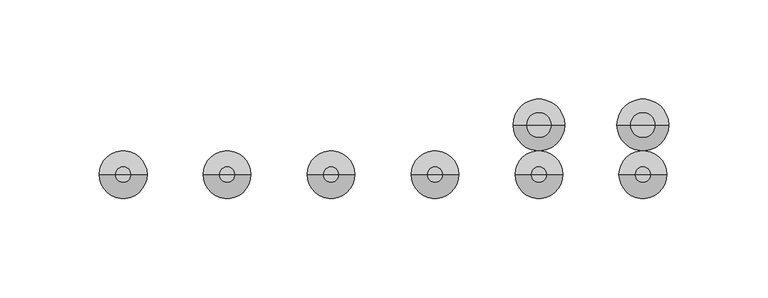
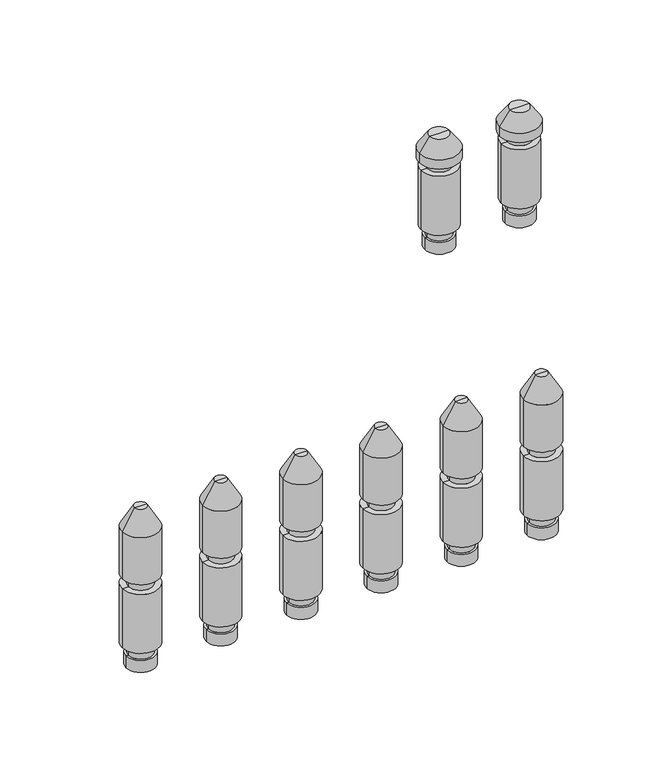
"""IFC4 building model written with IfcOpenShell, lengths in millimetres: valve geometry, PL AT_Manifold_FT-EV : 14 circuits."""

from ifc_helpers import new_model, si_unit, frame, origin, place, context, project, spatial, polyline, circle_curve, source, transform, mapped, element, save
from ifc_brep_helpers import plane_surface, cylinder_surface, revolved_surface, advanced_brep


def valve_5ad404c9(model_context):
    return source(origin(), model_context, "Body", "AdvancedBrep", [
        advanced_brep(
        [(660.1923077, 0.0, -35.11267), (679.1923077, 0.0, -35.11267), (669.6923077, 0.0, -35.11267), (660.1923077, 0.0, -27.0369646), (679.1923077, 0.0, -27.0369646), (661.6923077, 0.0, -27.0369646), (677.6923077, 0.0, -27.0369646), (661.6923077, 0.0, -20.330253), (677.6923077, 0.0, -20.330253), (657.6923077, 0.0, -20.330253), (681.6923077, 0.0, -20.330253), (657.6923077, 0.0, 20.330253), (681.6923077, 0.0, 20.330253), (661.6923077, 0.0, 20.330253), (677.6923077, 0.0, 20.330253), (661.6923077, 0.0, 27.0474786), (677.6923077, 0.0, 27.0474786), (657.6923077, 0.0, 27.0474786), (681.6923077, 0.0, 27.0474786), (657.6923077, 0.0, 59.4084325), (681.6923077, 0.0, 59.4084325), (665.6923077, 0.0, 73.264839), (673.6923077, 0.0, 73.264839), (669.6923077, 0.0, 73.264839)],
        [
            (0, 1, circle_curve(frame((669.6923077, 0.0, -35.11267), z_axis=(0.0, 0.0, -1.0), x_axis=(1.0, 0.0, 0.0)), 9.5)),
            (1, 2),
            (2, 0),
            (1, 0, circle_curve(frame((669.6923077, 0.0, -35.11267), z_axis=(0.0, 0.0, -1.0), x_axis=(1.0, 0.0, 0.0)), 9.5)),
            (3, 4, circle_curve(frame((669.6923077, 0.0, -27.0369646), z_axis=(0.0, 0.0, -1.0), x_axis=(1.0, 0.0, 0.0)), 9.5)),
            (4, 1),
            (0, 3),
            (4, 3, circle_curve(frame((669.6923077, 0.0, -27.0369646), z_axis=(0.0, 0.0, -1.0), x_axis=(1.0, 0.0, 0.0)), 9.5)),
            (5, 6, circle_curve(frame((669.6923077, 0.0, -27.0369646), z_axis=(0.0, 0.0, -1.0), x_axis=(1.0, 0.0, 0.0)), 8.0)),
            (6, 4),
            (3, 5),
            (6, 5, circle_curve(frame((669.6923077, 0.0, -27.0369646), z_axis=(0.0, 0.0, -1.0), x_axis=(1.0, 0.0, 0.0)), 8.0)),
            (7, 8, circle_curve(frame((669.6923077, 0.0, -20.330253), z_axis=(0.0, 0.0, -1.0), x_axis=(1.0, 0.0, 0.0)), 8.0)),
            (8, 6),
            (5, 7),
            (8, 7, circle_curve(frame((669.6923077, 0.0, -20.330253), z_axis=(0.0, 0.0, -1.0), x_axis=(1.0, 0.0, 0.0)), 8.0)),
            (9, 10, circle_curve(frame((669.6923077, 0.0, -20.330253), z_axis=(0.0, 0.0, -1.0), x_axis=(1.0, 0.0, 0.0)), 12.0)),
            (10, 8),
            (7, 9),
            (10, 9, circle_curve(frame((669.6923077, 0.0, -20.330253), z_axis=(0.0, 0.0, -1.0), x_axis=(1.0, 0.0, 0.0)), 12.0)),
            (11, 12, circle_curve(frame((669.6923077, 0.0, 20.330253), z_axis=(0.0, 0.0, -1.0), x_axis=(1.0, 0.0, 0.0)), 12.0)),
            (12, 10),
            (9, 11),
            (12, 11, circle_curve(frame((669.6923077, 0.0, 20.330253), z_axis=(0.0, 0.0, -1.0), x_axis=(1.0, 0.0, 0.0)), 12.0)),
            (13, 14, circle_curve(frame((669.6923077, 0.0, 20.330253), z_axis=(0.0, 0.0, -1.0), x_axis=(1.0, 0.0, 0.0)), 8.0)),
            (14, 12),
            (11, 13),
            (14, 13, circle_curve(frame((669.6923077, 0.0, 20.330253), z_axis=(0.0, 0.0, -1.0), x_axis=(1.0, 0.0, 0.0)), 8.0)),
            (15, 16, circle_curve(frame((669.6923077, 0.0, 27.0474786), z_axis=(0.0, 0.0, -1.0), x_axis=(1.0, 0.0, 0.0)), 8.0)),
            (16, 14),
            (13, 15),
            (16, 15, circle_curve(frame((669.6923077, 0.0, 27.0474786), z_axis=(0.0, 0.0, -1.0), x_axis=(1.0, 0.0, 0.0)), 8.0)),
            (17, 18, circle_curve(frame((669.6923077, 0.0, 27.0474786), z_axis=(0.0, 0.0, -1.0), x_axis=(1.0, 0.0, 0.0)), 12.0)),
            (18, 16),
            (15, 17),
            (18, 17, circle_curve(frame((669.6923077, 0.0, 27.0474786), z_axis=(0.0, 0.0, -1.0), x_axis=(1.0, 0.0, 0.0)), 12.0)),
            (19, 20, circle_curve(frame((669.6923077, 0.0, 59.4084325), z_axis=(0.0, 0.0, -1.0), x_axis=(1.0, 0.0, 0.0)), 12.0)),
            (20, 18),
            (17, 19),
            (20, 19, circle_curve(frame((669.6923077, 0.0, 59.4084325), z_axis=(0.0, 0.0, -1.0), x_axis=(1.0, 0.0, 0.0)), 12.0)),
            (21, 22, circle_curve(frame((669.6923077, 0.0, 73.264839), z_axis=(0.0, 0.0, -1.0), x_axis=(1.0, 0.0, 0.0)), 4.0)),
            (22, 20),
            (19, 21),
            (22, 21, circle_curve(frame((669.6923077, 0.0, 73.264839), z_axis=(0.0, 0.0, -1.0), x_axis=(1.0, 0.0, 0.0)), 4.0)),
            (23, 22),
            (21, 23),
        ],
        [
            plane_surface(frame((669.6923077, 0.0, -35.11267), z_axis=(0.0, 0.0, -1.0), x_axis=(1.0, 0.0, 0.0))),
            cylinder_surface(frame((669.6923077, 0.0, 58.264839), z_axis=(0.0, 0.0, 1.0), x_axis=(1.0, 0.0, 0.0)), 9.5),
            plane_surface(frame((669.6923077, 0.0, -27.0369646), z_axis=(0.0, 0.0, 1.0), x_axis=(1.0, 0.0, 0.0))),
            cylinder_surface(frame((669.6923077, 0.0, 58.264839), z_axis=(0.0, 0.0, 1.0), x_axis=(1.0, 0.0, 0.0)), 8.0),
            plane_surface(frame((669.6923077, 0.0, -20.330253), z_axis=(0.0, 0.0, -1.0), x_axis=(1.0, 0.0, 0.0))),
            cylinder_surface(frame((669.6923077, 0.0, 58.264839), z_axis=(0.0, 0.0, 1.0), x_axis=(1.0, 0.0, 0.0)), 12.0),
            plane_surface(frame((669.6923077, 0.0, 20.330253), z_axis=(0.0, 0.0, 1.0), x_axis=(1.0, 0.0, 0.0))),
            plane_surface(frame((669.6923077, 0.0, 27.0474786), z_axis=(0.0, 0.0, -1.0), x_axis=(1.0, 0.0, 0.0))),
            revolved_surface(polyline([(681.6923077, 0.0, 59.4084325), (673.6923077, 0.0, 73.264839)]), (669.6923077, 0.0, 58.264839), (0.0, 0.0, 1.0)),
            plane_surface(frame((669.6923077, 0.0, 73.264839), z_axis=(0.0, 0.0, 1.0), x_axis=(1.0, 0.0, 0.0))),
        ],
        [
            (0, [[1, 2, 3]]),
            (0, [[4, -3, -2]]),
            (1, [[5, 6, -1, 7]]),
            (1, [[8, -7, -4, -6]]),
            (2, [[9, 10, -5, 11]]),
            (2, [[12, -11, -8, -10]]),
            (3, [[13, 14, -9, 15]]),
            (3, [[16, -15, -12, -14]]),
            (4, [[17, 18, -13, 19]]),
            (4, [[20, -19, -16, -18]]),
            (5, [[21, 22, -17, 23]]),
            (5, [[24, -23, -20, -22]]),
            (6, [[25, 26, -21, 27]]),
            (6, [[28, -27, -24, -26]]),
            (3, [[29, 30, -25, 31]]),
            (3, [[32, -31, -28, -30]]),
            (7, [[33, 34, -29, 35]]),
            (7, [[36, -35, -32, -34]]),
            (5, [[37, 38, -33, 39]]),
            (5, [[40, -39, -36, -38]]),
            (8, [[41, 42, -37, 43]]),
            (8, [[44, -43, -40, -42]]),
            (9, [[45, -41, 46]]),
            (9, [[-46, -44, -45]]),
        ],
    ),
        advanced_brep(
        [(607.8846154, 0.0, -35.11267), (626.8846154, 0.0, -35.11267), (617.3846154, 0.0, -35.11267), (607.8846154, 0.0, -27.0369646), (626.8846154, 0.0, -27.0369646), (609.3846154, 0.0, -27.0369646), (625.3846154, 0.0, -27.0369646), (609.3846154, 0.0, -20.330253), (625.3846154, 0.0, -20.330253), (605.3846154, 0.0, -20.330253), (629.3846154, 0.0, -20.330253), (605.3846154, 0.0, 20.330253), (629.3846154, 0.0, 20.330253), (609.3846154, 0.0, 20.330253), (625.3846154, 0.0, 20.330253), (609.3846154, 0.0, 27.0474786), (625.3846154, 0.0, 27.0474786), (605.3846154, 0.0, 27.0474786), (629.3846154, 0.0, 27.0474786), (605.3846154, 0.0, 59.4084325), (629.3846154, 0.0, 59.4084325), (613.3846154, 0.0, 73.264839), (621.3846154, 0.0, 73.264839), (617.3846154, 0.0, 73.264839)],
        [
            (0, 1, circle_curve(frame((617.3846154, 0.0, -35.11267), z_axis=(0.0, 0.0, -1.0), x_axis=(1.0, 0.0, 0.0)), 9.5)),
            (1, 2),
            (2, 0),
            (1, 0, circle_curve(frame((617.3846154, 0.0, -35.11267), z_axis=(0.0, 0.0, -1.0), x_axis=(1.0, 0.0, 0.0)), 9.5)),
            (3, 4, circle_curve(frame((617.3846154, 0.0, -27.0369646), z_axis=(0.0, 0.0, -1.0), x_axis=(1.0, 0.0, 0.0)), 9.5)),
            (4, 1),
            (0, 3),
            (4, 3, circle_curve(frame((617.3846154, 0.0, -27.0369646), z_axis=(0.0, 0.0, -1.0), x_axis=(1.0, 0.0, 0.0)), 9.5)),
            (5, 6, circle_curve(frame((617.3846154, 0.0, -27.0369646), z_axis=(0.0, 0.0, -1.0), x_axis=(1.0, 0.0, 0.0)), 8.0)),
            (6, 4),
            (3, 5),
            (6, 5, circle_curve(frame((617.3846154, 0.0, -27.0369646), z_axis=(0.0, 0.0, -1.0), x_axis=(1.0, 0.0, 0.0)), 8.0)),
            (7, 8, circle_curve(frame((617.3846154, 0.0, -20.330253), z_axis=(0.0, 0.0, -1.0), x_axis=(1.0, 0.0, 0.0)), 8.0)),
            (8, 6),
            (5, 7),
            (8, 7, circle_curve(frame((617.3846154, 0.0, -20.330253), z_axis=(0.0, 0.0, -1.0), x_axis=(1.0, 0.0, 0.0)), 8.0)),
            (9, 10, circle_curve(frame((617.3846154, 0.0, -20.330253), z_axis=(0.0, 0.0, -1.0), x_axis=(1.0, 0.0, 0.0)), 12.0)),
            (10, 8),
            (7, 9),
            (10, 9, circle_curve(frame((617.3846154, 0.0, -20.330253), z_axis=(0.0, 0.0, -1.0), x_axis=(1.0, 0.0, 0.0)), 12.0)),
            (11, 12, circle_curve(frame((617.3846154, 0.0, 20.330253), z_axis=(0.0, 0.0, -1.0), x_axis=(1.0, 0.0, 0.0)), 12.0)),
            (12, 10),
            (9, 11),
            (12, 11, circle_curve(frame((617.3846154, 0.0, 20.330253), z_axis=(0.0, 0.0, -1.0), x_axis=(1.0, 0.0, 0.0)), 12.0)),
            (13, 14, circle_curve(frame((617.3846154, 0.0, 20.330253), z_axis=(0.0, 0.0, -1.0), x_axis=(1.0, 0.0, 0.0)), 8.0)),
            (14, 12),
            (11, 13),
            (14, 13, circle_curve(frame((617.3846154, 0.0, 20.330253), z_axis=(0.0, 0.0, -1.0), x_axis=(1.0, 0.0, 0.0)), 8.0)),
            (15, 16, circle_curve(frame((617.3846154, 0.0, 27.0474786), z_axis=(0.0, 0.0, -1.0), x_axis=(1.0, 0.0, 0.0)), 8.0)),
            (16, 14),
            (13, 15),
            (16, 15, circle_curve(frame((617.3846154, 0.0, 27.0474786), z_axis=(0.0, 0.0, -1.0), x_axis=(1.0, 0.0, 0.0)), 8.0)),
            (17, 18, circle_curve(frame((617.3846154, 0.0, 27.0474786), z_axis=(0.0, 0.0, -1.0), x_axis=(1.0, 0.0, 0.0)), 12.0)),
            (18, 16),
            (15, 17),
            (18, 17, circle_curve(frame((617.3846154, 0.0, 27.0474786), z_axis=(0.0, 0.0, -1.0), x_axis=(1.0, 0.0, 0.0)), 12.0)),
            (19, 20, circle_curve(frame((617.3846154, 0.0, 59.4084325), z_axis=(0.0, 0.0, -1.0), x_axis=(1.0, 0.0, 0.0)), 12.0)),
            (20, 18),
            (17, 19),
            (20, 19, circle_curve(frame((617.3846154, 0.0, 59.4084325), z_axis=(0.0, 0.0, -1.0), x_axis=(1.0, 0.0, 0.0)), 12.0)),
            (21, 22, circle_curve(frame((617.3846154, 0.0, 73.264839), z_axis=(0.0, 0.0, -1.0), x_axis=(1.0, 0.0, 0.0)), 4.0)),
            (22, 20),
            (19, 21),
            (22, 21, circle_curve(frame((617.3846154, 0.0, 73.264839), z_axis=(0.0, 0.0, -1.0), x_axis=(1.0, 0.0, 0.0)), 4.0)),
            (23, 22),
            (21, 23),
        ],
        [
            plane_surface(frame((617.3846154, 0.0, -35.11267), z_axis=(0.0, 0.0, -1.0), x_axis=(1.0, 0.0, 0.0))),
            cylinder_surface(frame((617.3846154, 0.0, 58.264839), z_axis=(0.0, 0.0, 1.0), x_axis=(1.0, 0.0, 0.0)), 9.5),
            plane_surface(frame((617.3846154, 0.0, -27.0369646), z_axis=(0.0, 0.0, 1.0), x_axis=(1.0, 0.0, 0.0))),
            cylinder_surface(frame((617.3846154, 0.0, 58.264839), z_axis=(0.0, 0.0, 1.0), x_axis=(1.0, 0.0, 0.0)), 8.0),
            plane_surface(frame((617.3846154, 0.0, -20.330253), z_axis=(0.0, 0.0, -1.0), x_axis=(1.0, 0.0, 0.0))),
            cylinder_surface(frame((617.3846154, 0.0, 58.264839), z_axis=(0.0, 0.0, 1.0), x_axis=(1.0, 0.0, 0.0)), 12.0),
            plane_surface(frame((617.3846154, 0.0, 20.330253), z_axis=(0.0, 0.0, 1.0), x_axis=(1.0, 0.0, 0.0))),
            plane_surface(frame((617.3846154, 0.0, 27.0474786), z_axis=(0.0, 0.0, -1.0), x_axis=(1.0, 0.0, 0.0))),
            revolved_surface(polyline([(629.3846154, 0.0, 59.4084325), (621.3846154, 0.0, 73.264839)]), (617.3846154, 0.0, 58.264839), (0.0, 0.0, 1.0)),
            plane_surface(frame((617.3846154, 0.0, 73.264839), z_axis=(0.0, 0.0, 1.0), x_axis=(1.0, 0.0, 0.0))),
        ],
        [
            (0, [[1, 2, 3]]),
            (0, [[4, -3, -2]]),
            (1, [[5, 6, -1, 7]]),
            (1, [[8, -7, -4, -6]]),
            (2, [[9, 10, -5, 11]]),
            (2, [[12, -11, -8, -10]]),
            (3, [[13, 14, -9, 15]]),
            (3, [[16, -15, -12, -14]]),
            (4, [[17, 18, -13, 19]]),
            (4, [[20, -19, -16, -18]]),
            (5, [[21, 22, -17, 23]]),
            (5, [[24, -23, -20, -22]]),
            (6, [[25, 26, -21, 27]]),
            (6, [[28, -27, -24, -26]]),
            (3, [[29, 30, -25, 31]]),
            (3, [[32, -31, -28, -30]]),
            (7, [[33, 34, -29, 35]]),
            (7, [[36, -35, -32, -34]]),
            (5, [[37, 38, -33, 39]]),
            (5, [[40, -39, -36, -38]]),
            (8, [[41, 42, -37, 43]]),
            (8, [[44, -43, -40, -42]]),
            (9, [[45, -41, 46]]),
            (9, [[-46, -44, -45]]),
        ],
    ),
        advanced_brep(
        [(555.5769231, 0.0, -35.11267), (574.5769231, 0.0, -35.11267), (565.0769231, 0.0, -35.11267), (555.5769231, 0.0, -27.0369646), (574.5769231, 0.0, -27.0369646), (557.0769231, 0.0, -27.0369646), (573.0769231, 0.0, -27.0369646), (557.0769231, 0.0, -20.330253), (573.0769231, 0.0, -20.330253), (553.0769231, 0.0, -20.330253), (577.0769231, 0.0, -20.330253), (553.0769231, 0.0, 20.330253), (577.0769231, 0.0, 20.330253), (557.0769231, 0.0, 20.330253), (573.0769231, 0.0, 20.330253), (557.0769231, 0.0, 27.0474786), (573.0769231, 0.0, 27.0474786), (553.0769231, 0.0, 27.0474786), (577.0769231, 0.0, 27.0474786), (553.0769231, 0.0, 59.4084325), (577.0769231, 0.0, 59.4084325), (561.0769231, 0.0, 73.264839), (569.0769231, 0.0, 73.264839), (565.0769231, 0.0, 73.264839)],
        [
            (0, 1, circle_curve(frame((565.0769231, 0.0, -35.11267), z_axis=(0.0, 0.0, -1.0), x_axis=(1.0, 0.0, 0.0)), 9.5)),
            (1, 2),
            (2, 0),
            (1, 0, circle_curve(frame((565.0769231, 0.0, -35.11267), z_axis=(0.0, 0.0, -1.0), x_axis=(1.0, 0.0, 0.0)), 9.5)),
            (3, 4, circle_curve(frame((565.0769231, 0.0, -27.0369646), z_axis=(0.0, 0.0, -1.0), x_axis=(1.0, 0.0, 0.0)), 9.5)),
            (4, 1),
            (0, 3),
            (4, 3, circle_curve(frame((565.0769231, 0.0, -27.0369646), z_axis=(0.0, 0.0, -1.0), x_axis=(1.0, 0.0, 0.0)), 9.5)),
            (5, 6, circle_curve(frame((565.0769231, 0.0, -27.0369646), z_axis=(0.0, 0.0, -1.0), x_axis=(1.0, 0.0, 0.0)), 8.0)),
            (6, 4),
            (3, 5),
            (6, 5, circle_curve(frame((565.0769231, 0.0, -27.0369646), z_axis=(0.0, 0.0, -1.0), x_axis=(1.0, 0.0, 0.0)), 8.0)),
            (7, 8, circle_curve(frame((565.0769231, 0.0, -20.330253), z_axis=(0.0, 0.0, -1.0), x_axis=(1.0, 0.0, 0.0)), 8.0)),
            (8, 6),
            (5, 7),
            (8, 7, circle_curve(frame((565.0769231, 0.0, -20.330253), z_axis=(0.0, 0.0, -1.0), x_axis=(1.0, 0.0, 0.0)), 8.0)),
            (9, 10, circle_curve(frame((565.0769231, 0.0, -20.330253), z_axis=(0.0, 0.0, -1.0), x_axis=(1.0, 0.0, 0.0)), 12.0)),
            (10, 8),
            (7, 9),
            (10, 9, circle_curve(frame((565.0769231, 0.0, -20.330253), z_axis=(0.0, 0.0, -1.0), x_axis=(1.0, 0.0, 0.0)), 12.0)),
            (11, 12, circle_curve(frame((565.0769231, 0.0, 20.330253), z_axis=(0.0, 0.0, -1.0), x_axis=(1.0, 0.0, 0.0)), 12.0)),
            (12, 10),
            (9, 11),
            (12, 11, circle_curve(frame((565.0769231, 0.0, 20.330253), z_axis=(0.0, 0.0, -1.0), x_axis=(1.0, 0.0, 0.0)), 12.0)),
            (13, 14, circle_curve(frame((565.0769231, 0.0, 20.330253), z_axis=(0.0, 0.0, -1.0), x_axis=(1.0, 0.0, 0.0)), 8.0)),
            (14, 12),
            (11, 13),
            (14, 13, circle_curve(frame((565.0769231, 0.0, 20.330253), z_axis=(0.0, 0.0, -1.0), x_axis=(1.0, 0.0, 0.0)), 8.0)),
            (15, 16, circle_curve(frame((565.0769231, 0.0, 27.0474786), z_axis=(0.0, 0.0, -1.0), x_axis=(1.0, 0.0, 0.0)), 8.0)),
            (16, 14),
            (13, 15),
            (16, 15, circle_curve(frame((565.0769231, 0.0, 27.0474786), z_axis=(0.0, 0.0, -1.0), x_axis=(1.0, 0.0, 0.0)), 8.0)),
            (17, 18, circle_curve(frame((565.0769231, 0.0, 27.0474786), z_axis=(0.0, 0.0, -1.0), x_axis=(1.0, 0.0, 0.0)), 12.0)),
            (18, 16),
            (15, 17),
            (18, 17, circle_curve(frame((565.0769231, 0.0, 27.0474786), z_axis=(0.0, 0.0, -1.0), x_axis=(1.0, 0.0, 0.0)), 12.0)),
            (19, 20, circle_curve(frame((565.0769231, 0.0, 59.4084325), z_axis=(0.0, 0.0, -1.0), x_axis=(1.0, 0.0, 0.0)), 12.0)),
            (20, 18),
            (17, 19),
            (20, 19, circle_curve(frame((565.0769231, 0.0, 59.4084325), z_axis=(0.0, 0.0, -1.0), x_axis=(1.0, 0.0, 0.0)), 12.0)),
            (21, 22, circle_curve(frame((565.0769231, 0.0, 73.264839), z_axis=(0.0, 0.0, -1.0), x_axis=(1.0, 0.0, 0.0)), 4.0)),
            (22, 20),
            (19, 21),
            (22, 21, circle_curve(frame((565.0769231, 0.0, 73.264839), z_axis=(0.0, 0.0, -1.0), x_axis=(1.0, 0.0, 0.0)), 4.0)),
            (23, 22),
            (21, 23),
        ],
        [
            plane_surface(frame((565.0769231, 0.0, -35.11267), z_axis=(0.0, 0.0, -1.0), x_axis=(1.0, 0.0, 0.0))),
            cylinder_surface(frame((565.0769231, 0.0, 58.264839), z_axis=(0.0, 0.0, 1.0), x_axis=(1.0, 0.0, 0.0)), 9.5),
            plane_surface(frame((565.0769231, 0.0, -27.0369646), z_axis=(0.0, 0.0, 1.0), x_axis=(1.0, 0.0, 0.0))),
            cylinder_surface(frame((565.0769231, 0.0, 58.264839), z_axis=(0.0, 0.0, 1.0), x_axis=(1.0, 0.0, 0.0)), 8.0),
            plane_surface(frame((565.0769231, 0.0, -20.330253), z_axis=(0.0, 0.0, -1.0), x_axis=(1.0, 0.0, 0.0))),
            cylinder_surface(frame((565.0769231, 0.0, 58.264839), z_axis=(0.0, 0.0, 1.0), x_axis=(1.0, 0.0, 0.0)), 12.0),
            plane_surface(frame((565.0769231, 0.0, 20.330253), z_axis=(0.0, 0.0, 1.0), x_axis=(1.0, 0.0, 0.0))),
            plane_surface(frame((565.0769231, 0.0, 27.0474786), z_axis=(0.0, 0.0, -1.0), x_axis=(1.0, 0.0, 0.0))),
            revolved_surface(polyline([(577.0769231, 0.0, 59.4084325), (569.0769231, 0.0, 73.264839)]), (565.0769231, 0.0, 58.264839), (0.0, 0.0, 1.0)),
            plane_surface(frame((565.0769231, 0.0, 73.264839), z_axis=(0.0, 0.0, 1.0), x_axis=(1.0, 0.0, 0.0))),
        ],
        [
            (0, [[1, 2, 3]]),
            (0, [[4, -3, -2]]),
            (1, [[5, 6, -1, 7]]),
            (1, [[8, -7, -4, -6]]),
            (2, [[9, 10, -5, 11]]),
            (2, [[12, -11, -8, -10]]),
            (3, [[13, 14, -9, 15]]),
            (3, [[16, -15, -12, -14]]),
            (4, [[17, 18, -13, 19]]),
            (4, [[20, -19, -16, -18]]),
            (5, [[21, 22, -17, 23]]),
            (5, [[24, -23, -20, -22]]),
            (6, [[25, 26, -21, 27]]),
            (6, [[28, -27, -24, -26]]),
            (3, [[29, 30, -25, 31]]),
            (3, [[32, -31, -28, -30]]),
            (7, [[33, 34, -29, 35]]),
            (7, [[36, -35, -32, -34]]),
            (5, [[37, 38, -33, 39]]),
            (5, [[40, -39, -36, -38]]),
            (8, [[41, 42, -37, 43]]),
            (8, [[44, -43, -40, -42]]),
            (9, [[45, -41, 46]]),
            (9, [[-46, -44, -45]]),
        ],
    ),
        advanced_brep(
        [(503.2692308, 0.0, -35.11267), (522.2692308, 0.0, -35.11267), (512.7692308, 0.0, -35.11267), (503.2692308, 0.0, -27.0369646), (522.2692308, 0.0, -27.0369646), (504.7692308, 0.0, -27.0369646), (520.7692308, 0.0, -27.0369646), (504.7692308, 0.0, -20.330253), (520.7692308, 0.0, -20.330253), (500.7692308, 0.0, -20.330253), (524.7692308, 0.0, -20.330253), (500.7692308, 0.0, 20.330253), (524.7692308, 0.0, 20.330253), (504.7692308, 0.0, 20.330253), (520.7692308, 0.0, 20.330253), (504.7692308, 0.0, 27.0474786), (520.7692308, 0.0, 27.0474786), (500.7692308, 0.0, 27.0474786), (524.7692308, 0.0, 27.0474786), (500.7692308, 0.0, 59.4084325), (524.7692308, 0.0, 59.4084325), (508.7692308, 0.0, 73.264839), (516.7692308, 0.0, 73.264839), (512.7692308, 0.0, 73.264839)],
        [
            (0, 1, circle_curve(frame((512.7692308, 0.0, -35.11267), z_axis=(0.0, 0.0, -1.0), x_axis=(1.0, 0.0, 0.0)), 9.5)),
            (1, 2),
            (2, 0),
            (1, 0, circle_curve(frame((512.7692308, 0.0, -35.11267), z_axis=(0.0, 0.0, -1.0), x_axis=(1.0, 0.0, 0.0)), 9.5)),
            (3, 4, circle_curve(frame((512.7692308, 0.0, -27.0369646), z_axis=(0.0, 0.0, -1.0), x_axis=(1.0, 0.0, 0.0)), 9.5)),
            (4, 1),
            (0, 3),
            (4, 3, circle_curve(frame((512.7692308, 0.0, -27.0369646), z_axis=(0.0, 0.0, -1.0), x_axis=(1.0, 0.0, 0.0)), 9.5)),
            (5, 6, circle_curve(frame((512.7692308, 0.0, -27.0369646), z_axis=(0.0, 0.0, -1.0), x_axis=(1.0, 0.0, 0.0)), 8.0)),
            (6, 4),
            (3, 5),
            (6, 5, circle_curve(frame((512.7692308, 0.0, -27.0369646), z_axis=(0.0, 0.0, -1.0), x_axis=(1.0, 0.0, 0.0)), 8.0)),
            (7, 8, circle_curve(frame((512.7692308, 0.0, -20.330253), z_axis=(0.0, 0.0, -1.0), x_axis=(1.0, 0.0, 0.0)), 8.0)),
            (8, 6),
            (5, 7),
            (8, 7, circle_curve(frame((512.7692308, 0.0, -20.330253), z_axis=(0.0, 0.0, -1.0), x_axis=(1.0, 0.0, 0.0)), 8.0)),
            (9, 10, circle_curve(frame((512.7692308, 0.0, -20.330253), z_axis=(0.0, 0.0, -1.0), x_axis=(1.0, 0.0, 0.0)), 12.0)),
            (10, 8),
            (7, 9),
            (10, 9, circle_curve(frame((512.7692308, 0.0, -20.330253), z_axis=(0.0, 0.0, -1.0), x_axis=(1.0, 0.0, 0.0)), 12.0)),
            (11, 12, circle_curve(frame((512.7692308, 0.0, 20.330253), z_axis=(0.0, 0.0, -1.0), x_axis=(1.0, 0.0, 0.0)), 12.0)),
            (12, 10),
            (9, 11),
            (12, 11, circle_curve(frame((512.7692308, 0.0, 20.330253), z_axis=(0.0, 0.0, -1.0), x_axis=(1.0, 0.0, 0.0)), 12.0)),
            (13, 14, circle_curve(frame((512.7692308, 0.0, 20.330253), z_axis=(0.0, 0.0, -1.0), x_axis=(1.0, 0.0, 0.0)), 8.0)),
            (14, 12),
            (11, 13),
            (14, 13, circle_curve(frame((512.7692308, 0.0, 20.330253), z_axis=(0.0, 0.0, -1.0), x_axis=(1.0, 0.0, 0.0)), 8.0)),
            (15, 16, circle_curve(frame((512.7692308, 0.0, 27.0474786), z_axis=(0.0, 0.0, -1.0), x_axis=(1.0, 0.0, 0.0)), 8.0)),
            (16, 14),
            (13, 15),
            (16, 15, circle_curve(frame((512.7692308, 0.0, 27.0474786), z_axis=(0.0, 0.0, -1.0), x_axis=(1.0, 0.0, 0.0)), 8.0)),
            (17, 18, circle_curve(frame((512.7692308, 0.0, 27.0474786), z_axis=(0.0, 0.0, -1.0), x_axis=(1.0, 0.0, 0.0)), 12.0)),
            (18, 16),
            (15, 17),
            (18, 17, circle_curve(frame((512.7692308, 0.0, 27.0474786), z_axis=(0.0, 0.0, -1.0), x_axis=(1.0, 0.0, 0.0)), 12.0)),
            (19, 20, circle_curve(frame((512.7692308, 0.0, 59.4084325), z_axis=(0.0, 0.0, -1.0), x_axis=(1.0, 0.0, 0.0)), 12.0)),
            (20, 18),
            (17, 19),
            (20, 19, circle_curve(frame((512.7692308, 0.0, 59.4084325), z_axis=(0.0, 0.0, -1.0), x_axis=(1.0, 0.0, 0.0)), 12.0)),
            (21, 22, circle_curve(frame((512.7692308, 0.0, 73.264839), z_axis=(0.0, 0.0, -1.0), x_axis=(1.0, 0.0, 0.0)), 4.0)),
            (22, 20),
            (19, 21),
            (22, 21, circle_curve(frame((512.7692308, 0.0, 73.264839), z_axis=(0.0, 0.0, -1.0), x_axis=(1.0, 0.0, 0.0)), 4.0)),
            (23, 22),
            (21, 23),
        ],
        [
            plane_surface(frame((512.7692308, 0.0, -35.11267), z_axis=(0.0, 0.0, -1.0), x_axis=(1.0, 0.0, 0.0))),
            cylinder_surface(frame((512.7692308, 0.0, 58.264839), z_axis=(0.0, 0.0, 1.0), x_axis=(1.0, 0.0, 0.0)), 9.5),
            plane_surface(frame((512.7692308, 0.0, -27.0369646), z_axis=(0.0, 0.0, 1.0), x_axis=(1.0, 0.0, 0.0))),
            cylinder_surface(frame((512.7692308, 0.0, 58.264839), z_axis=(0.0, 0.0, 1.0), x_axis=(1.0, 0.0, 0.0)), 8.0),
            plane_surface(frame((512.7692308, 0.0, -20.330253), z_axis=(0.0, 0.0, -1.0), x_axis=(1.0, 0.0, 0.0))),
            cylinder_surface(frame((512.7692308, 0.0, 58.264839), z_axis=(0.0, 0.0, 1.0), x_axis=(1.0, 0.0, 0.0)), 12.0),
            plane_surface(frame((512.7692308, 0.0, 20.330253), z_axis=(0.0, 0.0, 1.0), x_axis=(1.0, 0.0, 0.0))),
            plane_surface(frame((512.7692308, 0.0, 27.0474786), z_axis=(0.0, 0.0, -1.0), x_axis=(1.0, 0.0, 0.0))),
            revolved_surface(polyline([(524.7692308, 0.0, 59.4084325), (516.7692308, 0.0, 73.264839)]), (512.7692308, 0.0, 58.264839), (0.0, 0.0, 1.0)),
            plane_surface(frame((512.7692308, 0.0, 73.264839), z_axis=(0.0, 0.0, 1.0), x_axis=(1.0, 0.0, 0.0))),
        ],
        [
            (0, [[1, 2, 3]]),
            (0, [[4, -3, -2]]),
            (1, [[5, 6, -1, 7]]),
            (1, [[8, -7, -4, -6]]),
            (2, [[9, 10, -5, 11]]),
            (2, [[12, -11, -8, -10]]),
            (3, [[13, 14, -9, 15]]),
            (3, [[16, -15, -12, -14]]),
            (4, [[17, 18, -13, 19]]),
            (4, [[20, -19, -16, -18]]),
            (5, [[21, 22, -17, 23]]),
            (5, [[24, -23, -20, -22]]),
            (6, [[25, 26, -21, 27]]),
            (6, [[28, -27, -24, -26]]),
            (3, [[29, 30, -25, 31]]),
            (3, [[32, -31, -28, -30]]),
            (7, [[33, 34, -29, 35]]),
            (7, [[36, -35, -32, -34]]),
            (5, [[37, 38, -33, 39]]),
            (5, [[40, -39, -36, -38]]),
            (8, [[41, 42, -37, 43]]),
            (8, [[44, -43, -40, -42]]),
            (9, [[45, -41, 46]]),
            (9, [[-46, -44, -45]]),
        ],
    ),
        advanced_brep(
        [(450.9615385, 0.0, -35.11267), (469.9615385, 0.0, -35.11267), (460.4615385, 0.0, -35.11267), (450.9615385, 0.0, -27.0369646), (469.9615385, 0.0, -27.0369646), (452.4615385, 0.0, -27.0369646), (468.4615385, 0.0, -27.0369646), (452.4615385, 0.0, -20.330253), (468.4615385, 0.0, -20.330253), (448.4615385, 0.0, -20.330253), (472.4615385, 0.0, -20.330253), (448.4615385, 0.0, 20.330253), (472.4615385, 0.0, 20.330253), (452.4615385, 0.0, 20.330253), (468.4615385, 0.0, 20.330253), (452.4615385, 0.0, 27.0474786), (468.4615385, 0.0, 27.0474786), (448.4615385, 0.0, 27.0474786), (472.4615385, 0.0, 27.0474786), (448.4615385, 0.0, 59.4084325), (472.4615385, 0.0, 59.4084325), (456.4615385, 0.0, 73.264839), (464.4615385, 0.0, 73.264839), (460.4615385, 0.0, 73.264839)],
        [
            (0, 1, circle_curve(frame((460.4615385, 0.0, -35.11267), z_axis=(0.0, 0.0, -1.0), x_axis=(1.0, 0.0, 0.0)), 9.5)),
            (1, 2),
            (2, 0),
            (1, 0, circle_curve(frame((460.4615385, 0.0, -35.11267), z_axis=(0.0, 0.0, -1.0), x_axis=(1.0, 0.0, 0.0)), 9.5)),
            (3, 4, circle_curve(frame((460.4615385, 0.0, -27.0369646), z_axis=(0.0, 0.0, -1.0), x_axis=(1.0, 0.0, 0.0)), 9.5)),
            (4, 1),
            (0, 3),
            (4, 3, circle_curve(frame((460.4615385, 0.0, -27.0369646), z_axis=(0.0, 0.0, -1.0), x_axis=(1.0, 0.0, 0.0)), 9.5)),
            (5, 6, circle_curve(frame((460.4615385, 0.0, -27.0369646), z_axis=(0.0, 0.0, -1.0), x_axis=(1.0, 0.0, 0.0)), 8.0)),
            (6, 4),
            (3, 5),
            (6, 5, circle_curve(frame((460.4615385, 0.0, -27.0369646), z_axis=(0.0, 0.0, -1.0), x_axis=(1.0, 0.0, 0.0)), 8.0)),
            (7, 8, circle_curve(frame((460.4615385, 0.0, -20.330253), z_axis=(0.0, 0.0, -1.0), x_axis=(1.0, 0.0, 0.0)), 8.0)),
            (8, 6),
            (5, 7),
            (8, 7, circle_curve(frame((460.4615385, 0.0, -20.330253), z_axis=(0.0, 0.0, -1.0), x_axis=(1.0, 0.0, 0.0)), 8.0)),
            (9, 10, circle_curve(frame((460.4615385, 0.0, -20.330253), z_axis=(0.0, 0.0, -1.0), x_axis=(1.0, 0.0, 0.0)), 12.0)),
            (10, 8),
            (7, 9),
            (10, 9, circle_curve(frame((460.4615385, 0.0, -20.330253), z_axis=(0.0, 0.0, -1.0), x_axis=(1.0, 0.0, 0.0)), 12.0)),
            (11, 12, circle_curve(frame((460.4615385, 0.0, 20.330253), z_axis=(0.0, 0.0, -1.0), x_axis=(1.0, 0.0, 0.0)), 12.0)),
            (12, 10),
            (9, 11),
            (12, 11, circle_curve(frame((460.4615385, 0.0, 20.330253), z_axis=(0.0, 0.0, -1.0), x_axis=(1.0, 0.0, 0.0)), 12.0)),
            (13, 14, circle_curve(frame((460.4615385, 0.0, 20.330253), z_axis=(0.0, 0.0, -1.0), x_axis=(1.0, 0.0, 0.0)), 8.0)),
            (14, 12),
            (11, 13),
            (14, 13, circle_curve(frame((460.4615385, 0.0, 20.330253), z_axis=(0.0, 0.0, -1.0), x_axis=(1.0, 0.0, 0.0)), 8.0)),
            (15, 16, circle_curve(frame((460.4615385, 0.0, 27.0474786), z_axis=(0.0, 0.0, -1.0), x_axis=(1.0, 0.0, 0.0)), 8.0)),
            (16, 14),
            (13, 15),
            (16, 15, circle_curve(frame((460.4615385, 0.0, 27.0474786), z_axis=(0.0, 0.0, -1.0), x_axis=(1.0, 0.0, 0.0)), 8.0)),
            (17, 18, circle_curve(frame((460.4615385, 0.0, 27.0474786), z_axis=(0.0, 0.0, -1.0), x_axis=(1.0, 0.0, 0.0)), 12.0)),
            (18, 16),
            (15, 17),
            (18, 17, circle_curve(frame((460.4615385, 0.0, 27.0474786), z_axis=(0.0, 0.0, -1.0), x_axis=(1.0, 0.0, 0.0)), 12.0)),
            (19, 20, circle_curve(frame((460.4615385, 0.0, 59.4084325), z_axis=(0.0, 0.0, -1.0), x_axis=(1.0, 0.0, 0.0)), 12.0)),
            (20, 18),
            (17, 19),
            (20, 19, circle_curve(frame((460.4615385, 0.0, 59.4084325), z_axis=(0.0, 0.0, -1.0), x_axis=(1.0, 0.0, 0.0)), 12.0)),
            (21, 22, circle_curve(frame((460.4615385, 0.0, 73.264839), z_axis=(0.0, 0.0, -1.0), x_axis=(1.0, 0.0, 0.0)), 4.0)),
            (22, 20),
            (19, 21),
            (22, 21, circle_curve(frame((460.4615385, 0.0, 73.264839), z_axis=(0.0, 0.0, -1.0), x_axis=(1.0, 0.0, 0.0)), 4.0)),
            (23, 22),
            (21, 23),
        ],
        [
            plane_surface(frame((460.4615385, 0.0, -35.11267), z_axis=(0.0, 0.0, -1.0), x_axis=(1.0, 0.0, 0.0))),
            cylinder_surface(frame((460.4615385, 0.0, 58.264839), z_axis=(0.0, 0.0, 1.0), x_axis=(1.0, 0.0, 0.0)), 9.5),
            plane_surface(frame((460.4615385, 0.0, -27.0369646), z_axis=(0.0, 0.0, 1.0), x_axis=(1.0, 0.0, 0.0))),
            cylinder_surface(frame((460.4615385, 0.0, 58.264839), z_axis=(0.0, 0.0, 1.0), x_axis=(1.0, 0.0, 0.0)), 8.0),
            plane_surface(frame((460.4615385, 0.0, -20.330253), z_axis=(0.0, 0.0, -1.0), x_axis=(1.0, 0.0, 0.0))),
            cylinder_surface(frame((460.4615385, 0.0, 58.264839), z_axis=(0.0, 0.0, 1.0), x_axis=(1.0, 0.0, 0.0)), 12.0),
            plane_surface(frame((460.4615385, 0.0, 20.330253), z_axis=(0.0, 0.0, 1.0), x_axis=(1.0, 0.0, 0.0))),
            plane_surface(frame((460.4615385, 0.0, 27.0474786), z_axis=(0.0, 0.0, -1.0), x_axis=(1.0, 0.0, 0.0))),
            revolved_surface(polyline([(472.4615385, 0.0, 59.4084325), (464.4615385, 0.0, 73.264839)]), (460.4615385, 0.0, 58.264839), (0.0, 0.0, 1.0)),
            plane_surface(frame((460.4615385, 0.0, 73.264839), z_axis=(0.0, 0.0, 1.0), x_axis=(1.0, 0.0, 0.0))),
        ],
        [
            (0, [[1, 2, 3]]),
            (0, [[4, -3, -2]]),
            (1, [[5, 6, -1, 7]]),
            (1, [[8, -7, -4, -6]]),
            (2, [[9, 10, -5, 11]]),
            (2, [[12, -11, -8, -10]]),
            (3, [[13, 14, -9, 15]]),
            (3, [[16, -15, -12, -14]]),
            (4, [[17, 18, -13, 19]]),
            (4, [[20, -19, -16, -18]]),
            (5, [[21, 22, -17, 23]]),
            (5, [[24, -23, -20, -22]]),
            (6, [[25, 26, -21, 27]]),
            (6, [[28, -27, -24, -26]]),
            (3, [[29, 30, -25, 31]]),
            (3, [[32, -31, -28, -30]]),
            (7, [[33, 34, -29, 35]]),
            (7, [[36, -35, -32, -34]]),
            (5, [[37, 38, -33, 39]]),
            (5, [[40, -39, -36, -38]]),
            (8, [[41, 42, -37, 43]]),
            (8, [[44, -43, -40, -42]]),
            (9, [[45, -41, 46]]),
            (9, [[-46, -44, -45]]),
        ],
    ),
        advanced_brep(
        [(398.6538462, 0.0, -35.11267), (417.6538462, 0.0, -35.11267), (408.1538462, 0.0, -35.11267), (398.6538462, 0.0, -27.0369646), (417.6538462, 0.0, -27.0369646), (400.1538462, 0.0, -27.0369646), (416.1538462, 0.0, -27.0369646), (400.1538462, 0.0, -20.330253), (416.1538462, 0.0, -20.330253), (396.1538462, 0.0, -20.330253), (420.1538462, 0.0, -20.330253), (396.1538462, 0.0, 20.330253), (420.1538462, 0.0, 20.330253), (400.1538462, 0.0, 20.330253), (416.1538462, 0.0, 20.330253), (400.1538462, 0.0, 27.0474786), (416.1538462, 0.0, 27.0474786), (396.1538462, 0.0, 27.0474786), (420.1538462, 0.0, 27.0474786), (396.1538462, 0.0, 59.4084325), (420.1538462, 0.0, 59.4084325), (404.1538462, 0.0, 73.264839), (412.1538462, 0.0, 73.264839), (408.1538462, 0.0, 73.264839)],
        [
            (0, 1, circle_curve(frame((408.1538462, 0.0, -35.11267), z_axis=(0.0, 0.0, -1.0), x_axis=(1.0, 0.0, 0.0)), 9.5)),
            (1, 2),
            (2, 0),
            (1, 0, circle_curve(frame((408.1538462, 0.0, -35.11267), z_axis=(0.0, 0.0, -1.0), x_axis=(1.0, 0.0, 0.0)), 9.5)),
            (3, 4, circle_curve(frame((408.1538462, 0.0, -27.0369646), z_axis=(0.0, 0.0, -1.0), x_axis=(1.0, 0.0, 0.0)), 9.5)),
            (4, 1),
            (0, 3),
            (4, 3, circle_curve(frame((408.1538462, 0.0, -27.0369646), z_axis=(0.0, 0.0, -1.0), x_axis=(1.0, 0.0, 0.0)), 9.5)),
            (5, 6, circle_curve(frame((408.1538462, 0.0, -27.0369646), z_axis=(0.0, 0.0, -1.0), x_axis=(1.0, 0.0, 0.0)), 8.0)),
            (6, 4),
            (3, 5),
            (6, 5, circle_curve(frame((408.1538462, 0.0, -27.0369646), z_axis=(0.0, 0.0, -1.0), x_axis=(1.0, 0.0, 0.0)), 8.0)),
            (7, 8, circle_curve(frame((408.1538462, 0.0, -20.330253), z_axis=(0.0, 0.0, -1.0), x_axis=(1.0, 0.0, 0.0)), 8.0)),
            (8, 6),
            (5, 7),
            (8, 7, circle_curve(frame((408.1538462, 0.0, -20.330253), z_axis=(0.0, 0.0, -1.0), x_axis=(1.0, 0.0, 0.0)), 8.0)),
            (9, 10, circle_curve(frame((408.1538462, 0.0, -20.330253), z_axis=(0.0, 0.0, -1.0), x_axis=(1.0, 0.0, 0.0)), 12.0)),
            (10, 8),
            (7, 9),
            (10, 9, circle_curve(frame((408.1538462, 0.0, -20.330253), z_axis=(0.0, 0.0, -1.0), x_axis=(1.0, 0.0, 0.0)), 12.0)),
            (11, 12, circle_curve(frame((408.1538462, 0.0, 20.330253), z_axis=(0.0, 0.0, -1.0), x_axis=(1.0, 0.0, 0.0)), 12.0)),
            (12, 10),
            (9, 11),
            (12, 11, circle_curve(frame((408.1538462, 0.0, 20.330253), z_axis=(0.0, 0.0, -1.0), x_axis=(1.0, 0.0, 0.0)), 12.0)),
            (13, 14, circle_curve(frame((408.1538462, 0.0, 20.330253), z_axis=(0.0, 0.0, -1.0), x_axis=(1.0, 0.0, 0.0)), 8.0)),
            (14, 12),
            (11, 13),
            (14, 13, circle_curve(frame((408.1538462, 0.0, 20.330253), z_axis=(0.0, 0.0, -1.0), x_axis=(1.0, 0.0, 0.0)), 8.0)),
            (15, 16, circle_curve(frame((408.1538462, 0.0, 27.0474786), z_axis=(0.0, 0.0, -1.0), x_axis=(1.0, 0.0, 0.0)), 8.0)),
            (16, 14),
            (13, 15),
            (16, 15, circle_curve(frame((408.1538462, 0.0, 27.0474786), z_axis=(0.0, 0.0, -1.0), x_axis=(1.0, 0.0, 0.0)), 8.0)),
            (17, 18, circle_curve(frame((408.1538462, 0.0, 27.0474786), z_axis=(0.0, 0.0, -1.0), x_axis=(1.0, 0.0, 0.0)), 12.0)),
            (18, 16),
            (15, 17),
            (18, 17, circle_curve(frame((408.1538462, 0.0, 27.0474786), z_axis=(0.0, 0.0, -1.0), x_axis=(1.0, 0.0, 0.0)), 12.0)),
            (19, 20, circle_curve(frame((408.1538462, 0.0, 59.4084325), z_axis=(0.0, 0.0, -1.0), x_axis=(1.0, 0.0, 0.0)), 12.0)),
            (20, 18),
            (17, 19),
            (20, 19, circle_curve(frame((408.1538462, 0.0, 59.4084325), z_axis=(0.0, 0.0, -1.0), x_axis=(1.0, 0.0, 0.0)), 12.0)),
            (21, 22, circle_curve(frame((408.1538462, 0.0, 73.264839), z_axis=(0.0, 0.0, -1.0), x_axis=(1.0, 0.0, 0.0)), 4.0)),
            (22, 20),
            (19, 21),
            (22, 21, circle_curve(frame((408.1538462, 0.0, 73.264839), z_axis=(0.0, 0.0, -1.0), x_axis=(1.0, 0.0, 0.0)), 4.0)),
            (23, 22),
            (21, 23),
        ],
        [
            plane_surface(frame((408.1538462, 0.0, -35.11267), z_axis=(0.0, 0.0, -1.0), x_axis=(1.0, 0.0, 0.0))),
            cylinder_surface(frame((408.1538462, 0.0, 58.264839), z_axis=(0.0, 0.0, 1.0), x_axis=(1.0, 0.0, 0.0)), 9.5),
            plane_surface(frame((408.1538462, 0.0, -27.0369646), z_axis=(0.0, 0.0, 1.0), x_axis=(1.0, 0.0, 0.0))),
            cylinder_surface(frame((408.1538462, 0.0, 58.264839), z_axis=(0.0, 0.0, 1.0), x_axis=(1.0, 0.0, 0.0)), 8.0),
            plane_surface(frame((408.1538462, 0.0, -20.330253), z_axis=(0.0, 0.0, -1.0), x_axis=(1.0, 0.0, 0.0))),
            cylinder_surface(frame((408.1538462, 0.0, 58.264839), z_axis=(0.0, 0.0, 1.0), x_axis=(1.0, 0.0, 0.0)), 12.0),
            plane_surface(frame((408.1538462, 0.0, 20.330253), z_axis=(0.0, 0.0, 1.0), x_axis=(1.0, 0.0, 0.0))),
            plane_surface(frame((408.1538462, 0.0, 27.0474786), z_axis=(0.0, 0.0, -1.0), x_axis=(1.0, 0.0, 0.0))),
            revolved_surface(polyline([(420.1538462, 0.0, 59.4084325), (412.1538462, 0.0, 73.264839)]), (408.1538462, 0.0, 58.264839), (0.0, 0.0, 1.0)),
            plane_surface(frame((408.1538462, 0.0, 73.264839), z_axis=(0.0, 0.0, 1.0), x_axis=(1.0, 0.0, 0.0))),
        ],
        [
            (0, [[1, 2, 3]]),
            (0, [[4, -3, -2]]),
            (1, [[5, 6, -1, 7]]),
            (1, [[8, -7, -4, -6]]),
            (2, [[9, 10, -5, 11]]),
            (2, [[12, -11, -8, -10]]),
            (3, [[13, 14, -9, 15]]),
            (3, [[16, -15, -12, -14]]),
            (4, [[17, 18, -13, 19]]),
            (4, [[20, -19, -16, -18]]),
            (5, [[21, 22, -17, 23]]),
            (5, [[24, -23, -20, -22]]),
            (6, [[25, 26, -21, 27]]),
            (6, [[28, -27, -24, -26]]),
            (3, [[29, 30, -25, 31]]),
            (3, [[32, -31, -28, -30]]),
            (7, [[33, 34, -29, 35]]),
            (7, [[36, -35, -32, -34]]),
            (5, [[37, 38, -33, 39]]),
            (5, [[40, -39, -36, -38]]),
            (8, [[41, 42, -37, 43]]),
            (8, [[44, -43, -40, -42]]),
            (9, [[45, -41, 46]]),
            (9, [[-46, -44, -45]]),
        ],
    ),
        advanced_brep(
        [(660.1923077, 25.0, 164.88733), (679.1923077, 25.0, 164.88733), (669.6923077, 25.0, 164.88733), (660.1923077, 25.0, 172.9630354), (679.1923077, 25.0, 172.9630354), (661.6923077, 25.0, 172.9630354), (677.6923077, 25.0, 172.9630354), (661.6923077, 25.0, 179.669747), (677.6923077, 25.0, 179.669747), (657.6923077, 25.0, 179.669747), (681.6923077, 25.0, 179.669747), (657.6923077, 25.0, 220.330253), (681.6923077, 25.0, 220.330253), (661.6923077, 25.0, 220.330253), (677.6923077, 25.0, 220.330253), (661.6923077, 25.0, 226.0474786), (677.6923077, 25.0, 226.0474786), (656.6923077, 25.0, 226.0474786), (682.6923077, 25.0, 226.0474786), (656.6923077, 25.0, 232.337955), (682.6923077, 25.0, 232.337955), (663.3474856, 25.0, 241.842534), (676.0371298, 25.0, 241.842534), (669.6923077, 25.0, 241.842534)],
        [
            (0, 1, circle_curve(frame((669.6923077, 25.0, 164.88733), z_axis=(0.0, 0.0, -1.0), x_axis=(1.0, 0.0, 0.0)), 9.5)),
            (1, 2),
            (2, 0),
            (1, 0, circle_curve(frame((669.6923077, 25.0, 164.88733), z_axis=(0.0, 0.0, -1.0), x_axis=(1.0, 0.0, 0.0)), 9.5)),
            (3, 4, circle_curve(frame((669.6923077, 25.0, 172.9630354), z_axis=(0.0, 0.0, -1.0), x_axis=(1.0, 0.0, 0.0)), 9.5)),
            (4, 1),
            (0, 3),
            (4, 3, circle_curve(frame((669.6923077, 25.0, 172.9630354), z_axis=(0.0, 0.0, -1.0), x_axis=(1.0, 0.0, 0.0)), 9.5)),
            (5, 6, circle_curve(frame((669.6923077, 25.0, 172.9630354), z_axis=(0.0, 0.0, -1.0), x_axis=(1.0, 0.0, 0.0)), 8.0)),
            (6, 4),
            (3, 5),
            (6, 5, circle_curve(frame((669.6923077, 25.0, 172.9630354), z_axis=(0.0, 0.0, -1.0), x_axis=(1.0, 0.0, 0.0)), 8.0)),
            (7, 8, circle_curve(frame((669.6923077, 25.0, 179.669747), z_axis=(0.0, 0.0, -1.0), x_axis=(1.0, 0.0, 0.0)), 8.0)),
            (8, 6),
            (5, 7),
            (8, 7, circle_curve(frame((669.6923077, 25.0, 179.669747), z_axis=(0.0, 0.0, -1.0), x_axis=(1.0, 0.0, 0.0)), 8.0)),
            (9, 10, circle_curve(frame((669.6923077, 25.0, 179.669747), z_axis=(0.0, 0.0, -1.0), x_axis=(1.0, 0.0, 0.0)), 12.0)),
            (10, 8),
            (7, 9),
            (10, 9, circle_curve(frame((669.6923077, 25.0, 179.669747), z_axis=(0.0, 0.0, -1.0), x_axis=(1.0, 0.0, 0.0)), 12.0)),
            (11, 12, circle_curve(frame((669.6923077, 25.0, 220.330253), z_axis=(0.0, 0.0, -1.0), x_axis=(1.0, 0.0, 0.0)), 12.0)),
            (12, 10),
            (9, 11),
            (12, 11, circle_curve(frame((669.6923077, 25.0, 220.330253), z_axis=(0.0, 0.0, -1.0), x_axis=(1.0, 0.0, 0.0)), 12.0)),
            (13, 14, circle_curve(frame((669.6923077, 25.0, 220.330253), z_axis=(0.0, 0.0, -1.0), x_axis=(1.0, 0.0, 0.0)), 8.0)),
            (14, 12),
            (11, 13),
            (14, 13, circle_curve(frame((669.6923077, 25.0, 220.330253), z_axis=(0.0, 0.0, -1.0), x_axis=(1.0, 0.0, 0.0)), 8.0)),
            (15, 16, circle_curve(frame((669.6923077, 25.0, 226.0474786), z_axis=(0.0, 0.0, -1.0), x_axis=(1.0, 0.0, 0.0)), 8.0)),
            (16, 14),
            (13, 15),
            (16, 15, circle_curve(frame((669.6923077, 25.0, 226.0474786), z_axis=(0.0, 0.0, -1.0), x_axis=(1.0, 0.0, 0.0)), 8.0)),
            (17, 18, circle_curve(frame((669.6923077, 25.0, 226.0474786), z_axis=(0.0, 0.0, -1.0), x_axis=(1.0, 0.0, 0.0)), 13.0)),
            (18, 16),
            (15, 17),
            (18, 17, circle_curve(frame((669.6923077, 25.0, 226.0474786), z_axis=(0.0, 0.0, -1.0), x_axis=(1.0, 0.0, 0.0)), 13.0)),
            (19, 20, circle_curve(frame((669.6923077, 25.0, 232.337955), z_axis=(0.0, 0.0, -1.0), x_axis=(1.0, 0.0, 0.0)), 13.0)),
            (20, 18),
            (17, 19),
            (20, 19, circle_curve(frame((669.6923077, 25.0, 232.337955), z_axis=(0.0, 0.0, -1.0), x_axis=(1.0, 0.0, 0.0)), 13.0)),
            (21, 22, circle_curve(frame((669.6923077, 25.0, 241.842534), z_axis=(0.0, 0.0, -1.0), x_axis=(1.0, 0.0, 0.0)), 6.3448221)),
            (22, 20),
            (19, 21),
            (22, 21, circle_curve(frame((669.6923077, 25.0, 241.842534), z_axis=(0.0, 0.0, -1.0), x_axis=(1.0, 0.0, 0.0)), 6.3448221)),
            (23, 22),
            (21, 23),
        ],
        [
            plane_surface(frame((669.6923077, 25.0, 164.88733), z_axis=(0.0, 0.0, -1.0), x_axis=(1.0, 0.0, 0.0))),
            cylinder_surface(frame((669.6923077, 25.0, 237.7026565), z_axis=(0.0, 0.0, 1.0), x_axis=(1.0, 0.0, 0.0)), 9.5),
            plane_surface(frame((669.6923077, 25.0, 172.9630354), z_axis=(0.0, 0.0, 1.0), x_axis=(1.0, 0.0, 0.0))),
            cylinder_surface(frame((669.6923077, 25.0, 237.7026565), z_axis=(0.0, 0.0, 1.0), x_axis=(1.0, 0.0, 0.0)), 8.0),
            plane_surface(frame((669.6923077, 25.0, 179.669747), z_axis=(0.0, 0.0, -1.0), x_axis=(1.0, 0.0, 0.0))),
            cylinder_surface(frame((669.6923077, 25.0, 237.7026565), z_axis=(0.0, 0.0, 1.0), x_axis=(1.0, 0.0, 0.0)), 12.0),
            plane_surface(frame((669.6923077, 25.0, 220.330253), z_axis=(0.0, 0.0, 1.0), x_axis=(1.0, 0.0, 0.0))),
            plane_surface(frame((669.6923077, 25.0, 226.0474786), z_axis=(0.0, 0.0, -1.0), x_axis=(1.0, 0.0, 0.0))),
            cylinder_surface(frame((669.6923077, 25.0, 237.7026565), z_axis=(0.0, 0.0, 1.0), x_axis=(1.0, 0.0, 0.0)), 13.0),
            revolved_surface(polyline([(682.6923077, 25.0, 232.337955), (676.0371298, 25.0, 241.842534)]), (669.6923077, 25.0, 237.7026565), (0.0, 0.0, 1.0)),
            plane_surface(frame((669.6923077, 25.0, 241.842534), z_axis=(0.0, 0.0, 1.0), x_axis=(1.0, 0.0, 0.0))),
        ],
        [
            (0, [[1, 2, 3]]),
            (0, [[4, -3, -2]]),
            (1, [[5, 6, -1, 7]]),
            (1, [[8, -7, -4, -6]]),
            (2, [[9, 10, -5, 11]]),
            (2, [[12, -11, -8, -10]]),
            (3, [[13, 14, -9, 15]]),
            (3, [[16, -15, -12, -14]]),
            (4, [[17, 18, -13, 19]]),
            (4, [[20, -19, -16, -18]]),
            (5, [[21, 22, -17, 23]]),
            (5, [[24, -23, -20, -22]]),
            (6, [[25, 26, -21, 27]]),
            (6, [[28, -27, -24, -26]]),
            (3, [[29, 30, -25, 31]]),
            (3, [[32, -31, -28, -30]]),
            (7, [[33, 34, -29, 35]]),
            (7, [[36, -35, -32, -34]]),
            (8, [[37, 38, -33, 39]]),
            (8, [[40, -39, -36, -38]]),
            (9, [[41, 42, -37, 43]]),
            (9, [[44, -43, -40, -42]]),
            (10, [[45, -41, 46]]),
            (10, [[-46, -44, -45]]),
        ],
    ),
        advanced_brep(
        [(607.8846154, 25.0, 164.88733), (626.8846154, 25.0, 164.88733), (617.3846154, 25.0, 164.88733), (607.8846154, 25.0, 172.9630354), (626.8846154, 25.0, 172.9630354), (609.3846154, 25.0, 172.9630354), (625.3846154, 25.0, 172.9630354), (609.3846154, 25.0, 179.669747), (625.3846154, 25.0, 179.669747), (605.3846154, 25.0, 179.669747), (629.3846154, 25.0, 179.669747), (605.3846154, 25.0, 220.330253), (629.3846154, 25.0, 220.330253), (609.3846154, 25.0, 220.330253), (625.3846154, 25.0, 220.330253), (609.3846154, 25.0, 226.0474786), (625.3846154, 25.0, 226.0474786), (604.3846154, 25.0, 226.0474786), (630.3846154, 25.0, 226.0474786), (604.3846154, 25.0, 232.337955), (630.3846154, 25.0, 232.337955), (611.0397933, 25.0, 241.842534), (623.7294375, 25.0, 241.842534), (617.3846154, 25.0, 241.842534)],
        [
            (0, 1, circle_curve(frame((617.3846154, 25.0, 164.88733), z_axis=(0.0, 0.0, -1.0), x_axis=(1.0, 0.0, 0.0)), 9.5)),
            (1, 2),
            (2, 0),
            (1, 0, circle_curve(frame((617.3846154, 25.0, 164.88733), z_axis=(0.0, 0.0, -1.0), x_axis=(1.0, 0.0, 0.0)), 9.5)),
            (3, 4, circle_curve(frame((617.3846154, 25.0, 172.9630354), z_axis=(0.0, 0.0, -1.0), x_axis=(1.0, 0.0, 0.0)), 9.5)),
            (4, 1),
            (0, 3),
            (4, 3, circle_curve(frame((617.3846154, 25.0, 172.9630354), z_axis=(0.0, 0.0, -1.0), x_axis=(1.0, 0.0, 0.0)), 9.5)),
            (5, 6, circle_curve(frame((617.3846154, 25.0, 172.9630354), z_axis=(0.0, 0.0, -1.0), x_axis=(1.0, 0.0, 0.0)), 8.0)),
            (6, 4),
            (3, 5),
            (6, 5, circle_curve(frame((617.3846154, 25.0, 172.9630354), z_axis=(0.0, 0.0, -1.0), x_axis=(1.0, 0.0, 0.0)), 8.0)),
            (7, 8, circle_curve(frame((617.3846154, 25.0, 179.669747), z_axis=(0.0, 0.0, -1.0), x_axis=(1.0, 0.0, 0.0)), 8.0)),
            (8, 6),
            (5, 7),
            (8, 7, circle_curve(frame((617.3846154, 25.0, 179.669747), z_axis=(0.0, 0.0, -1.0), x_axis=(1.0, 0.0, 0.0)), 8.0)),
            (9, 10, circle_curve(frame((617.3846154, 25.0, 179.669747), z_axis=(0.0, 0.0, -1.0), x_axis=(1.0, 0.0, 0.0)), 12.0)),
            (10, 8),
            (7, 9),
            (10, 9, circle_curve(frame((617.3846154, 25.0, 179.669747), z_axis=(0.0, 0.0, -1.0), x_axis=(1.0, 0.0, 0.0)), 12.0)),
            (11, 12, circle_curve(frame((617.3846154, 25.0, 220.330253), z_axis=(0.0, 0.0, -1.0), x_axis=(1.0, 0.0, 0.0)), 12.0)),
            (12, 10),
            (9, 11),
            (12, 11, circle_curve(frame((617.3846154, 25.0, 220.330253), z_axis=(0.0, 0.0, -1.0), x_axis=(1.0, 0.0, 0.0)), 12.0)),
            (13, 14, circle_curve(frame((617.3846154, 25.0, 220.330253), z_axis=(0.0, 0.0, -1.0), x_axis=(1.0, 0.0, 0.0)), 8.0)),
            (14, 12),
            (11, 13),
            (14, 13, circle_curve(frame((617.3846154, 25.0, 220.330253), z_axis=(0.0, 0.0, -1.0), x_axis=(1.0, 0.0, 0.0)), 8.0)),
            (15, 16, circle_curve(frame((617.3846154, 25.0, 226.0474786), z_axis=(0.0, 0.0, -1.0), x_axis=(1.0, 0.0, 0.0)), 8.0)),
            (16, 14),
            (13, 15),
            (16, 15, circle_curve(frame((617.3846154, 25.0, 226.0474786), z_axis=(0.0, 0.0, -1.0), x_axis=(1.0, 0.0, 0.0)), 8.0)),
            (17, 18, circle_curve(frame((617.3846154, 25.0, 226.0474786), z_axis=(0.0, 0.0, -1.0), x_axis=(1.0, 0.0, 0.0)), 13.0)),
            (18, 16),
            (15, 17),
            (18, 17, circle_curve(frame((617.3846154, 25.0, 226.0474786), z_axis=(0.0, 0.0, -1.0), x_axis=(1.0, 0.0, 0.0)), 13.0)),
            (19, 20, circle_curve(frame((617.3846154, 25.0, 232.337955), z_axis=(0.0, 0.0, -1.0), x_axis=(1.0, 0.0, 0.0)), 13.0)),
            (20, 18),
            (17, 19),
            (20, 19, circle_curve(frame((617.3846154, 25.0, 232.337955), z_axis=(0.0, 0.0, -1.0), x_axis=(1.0, 0.0, 0.0)), 13.0)),
            (21, 22, circle_curve(frame((617.3846154, 25.0, 241.842534), z_axis=(0.0, 0.0, -1.0), x_axis=(1.0, 0.0, 0.0)), 6.3448221)),
            (22, 20),
            (19, 21),
            (22, 21, circle_curve(frame((617.3846154, 25.0, 241.842534), z_axis=(0.0, 0.0, -1.0), x_axis=(1.0, 0.0, 0.0)), 6.3448221)),
            (23, 22),
            (21, 23),
        ],
        [
            plane_surface(frame((617.3846154, 25.0, 164.88733), z_axis=(0.0, 0.0, -1.0), x_axis=(1.0, 0.0, 0.0))),
            cylinder_surface(frame((617.3846154, 25.0, 237.7026565), z_axis=(0.0, 0.0, 1.0), x_axis=(1.0, 0.0, 0.0)), 9.5),
            plane_surface(frame((617.3846154, 25.0, 172.9630354), z_axis=(0.0, 0.0, 1.0), x_axis=(1.0, 0.0, 0.0))),
            cylinder_surface(frame((617.3846154, 25.0, 237.7026565), z_axis=(0.0, 0.0, 1.0), x_axis=(1.0, 0.0, 0.0)), 8.0),
            plane_surface(frame((617.3846154, 25.0, 179.669747), z_axis=(0.0, 0.0, -1.0), x_axis=(1.0, 0.0, 0.0))),
            cylinder_surface(frame((617.3846154, 25.0, 237.7026565), z_axis=(0.0, 0.0, 1.0), x_axis=(1.0, 0.0, 0.0)), 12.0),
            plane_surface(frame((617.3846154, 25.0, 220.330253), z_axis=(0.0, 0.0, 1.0), x_axis=(1.0, 0.0, 0.0))),
            plane_surface(frame((617.3846154, 25.0, 226.0474786), z_axis=(0.0, 0.0, -1.0), x_axis=(1.0, 0.0, 0.0))),
            cylinder_surface(frame((617.3846154, 25.0, 237.7026565), z_axis=(0.0, 0.0, 1.0), x_axis=(1.0, 0.0, 0.0)), 13.0),
            revolved_surface(polyline([(630.3846154, 25.0, 232.337955), (623.7294375, 25.0, 241.842534)]), (617.3846154, 25.0, 237.7026565), (0.0, 0.0, 1.0)),
            plane_surface(frame((617.3846154, 25.0, 241.842534), z_axis=(0.0, 0.0, 1.0), x_axis=(1.0, 0.0, 0.0))),
        ],
        [
            (0, [[1, 2, 3]]),
            (0, [[4, -3, -2]]),
            (1, [[5, 6, -1, 7]]),
            (1, [[8, -7, -4, -6]]),
            (2, [[9, 10, -5, 11]]),
            (2, [[12, -11, -8, -10]]),
            (3, [[13, 14, -9, 15]]),
            (3, [[16, -15, -12, -14]]),
            (4, [[17, 18, -13, 19]]),
            (4, [[20, -19, -16, -18]]),
            (5, [[21, 22, -17, 23]]),
            (5, [[24, -23, -20, -22]]),
            (6, [[25, 26, -21, 27]]),
            (6, [[28, -27, -24, -26]]),
            (3, [[29, 30, -25, 31]]),
            (3, [[32, -31, -28, -30]]),
            (7, [[33, 34, -29, 35]]),
            (7, [[36, -35, -32, -34]]),
            (8, [[37, 38, -33, 39]]),
            (8, [[40, -39, -36, -38]]),
            (9, [[41, 42, -37, 43]]),
            (9, [[44, -43, -40, -42]]),
            (10, [[45, -41, 46]]),
            (10, [[-46, -44, -45]]),
        ],
    ),
    ])


if __name__ == "__main__":
    model = new_model("IFC4")
    model_context = context("Model", 3, world=origin())
    ifc_project = project(units=[si_unit("LENGTHUNIT", "METRE", prefix="MILLI")], contexts=[model_context])
    site = spatial("IfcSite", under=ifc_project)
    building = spatial("IfcBuilding", under=site)
    placement = place(None, origin())
    valve_shape = valve_5ad404c9(model_context)
    element("IfcValve", 1, ObjectType="PL AT_Manifold_FT-EV : 14 circuits", at=placement, inside=building, context=model_context, shape_type="MappedRepresentation", body=[
        mapped(valve_shape, transform((0.0, 0.0, 0.0), x_axis=(1.0, 0.0, 0.0), y_axis=(0.0, 1.0, 0.0), z_axis=(0.0, 0.0, 1.0))),
    ])
    save(model, "model.ifc")
